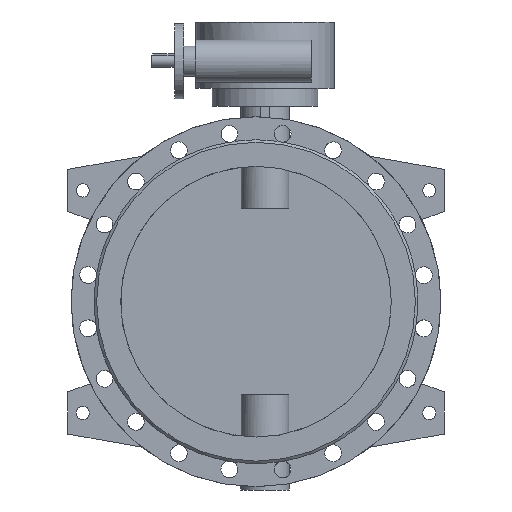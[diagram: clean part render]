
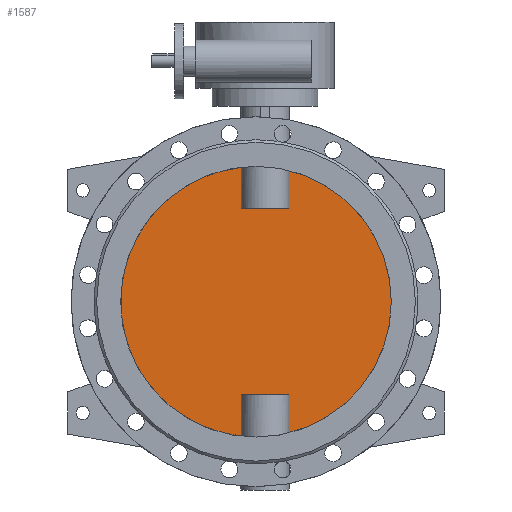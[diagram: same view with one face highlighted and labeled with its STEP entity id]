
A CAD part, front view. The second image highlights one B-rep face of the part: STEP entity #1587.
In plain terms, the highlighted planar face has unit normal (0, -1, 0).
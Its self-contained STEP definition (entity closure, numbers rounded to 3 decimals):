
#1587=ADVANCED_FACE('',(#3227),#3229,.F.);
#3227=FACE_BOUND('',#3228,.T.);
#3228=EDGE_LOOP('',(#4340,#4341,#4342,#4343,#4344,#4345,#4346,#4347));
#3229=PLANE('',#3230);
#3230=AXIS2_PLACEMENT_3D('',#3231,#3232,#3233);
#3231=CARTESIAN_POINT('',(0.,-5.,0.));
#3232=DIRECTION('',(0.,1.,0.));
#3233=DIRECTION('',(1.,0.,0.));
#4340=ORIENTED_EDGE('',*,*,#4892,.T.);
#4341=ORIENTED_EDGE('',*,*,#4902,.T.);
#4342=ORIENTED_EDGE('',*,*,#4903,.T.);
#4343=ORIENTED_EDGE('',*,*,#4904,.T.);
#4344=ORIENTED_EDGE('',*,*,#4894,.T.);
#4345=ORIENTED_EDGE('',*,*,#4905,.T.);
#4346=ORIENTED_EDGE('',*,*,#4906,.T.);
#4347=ORIENTED_EDGE('',*,*,#4907,.T.);
#4892=EDGE_CURVE('',#5791,#5792,#5793,.F.);
#4894=EDGE_CURVE('',#5796,#5794,#5797,.F.);
#4902=EDGE_CURVE('',#5792,#5811,#5812,.T.);
#4903=EDGE_CURVE('',#5811,#5813,#5814,.F.);
#4904=EDGE_CURVE('',#5813,#5796,#5815,.F.);
#4905=EDGE_CURVE('',#5794,#5816,#5817,.F.);
#4906=EDGE_CURVE('',#5816,#5818,#5819,.F.);
#4907=EDGE_CURVE('',#5818,#5791,#5820,.T.);
#5791=VERTEX_POINT('',#10607);
#5792=VERTEX_POINT('',#10608);
#5793=CIRCLE('',#10609,225.);
#5794=VERTEX_POINT('',#10613);
#5796=VERTEX_POINT('',#10699);
#5797=CIRCLE('',#10700,225.);
#5811=VERTEX_POINT('',#10843);
#5812=LINE('',#10844,#10845);
#5813=VERTEX_POINT('',#10847);
#5814=LINE('',#10848,#10849);
#5815=LINE('',#10851,#10852);
#5816=VERTEX_POINT('',#10854);
#5817=LINE('',#10855,#10856);
#5818=VERTEX_POINT('',#10858);
#5819=LINE('',#10859,#10860);
#5820=LINE('',#10862,#10863);
#10607=CARTESIAN_POINT('',(54.686,-5.,-218.253));
#10608=CARTESIAN_POINT('',(54.686,-5.,218.253));
#10609=AXIS2_PLACEMENT_3D('',#10610,#10611,#10612);
#10610=CARTESIAN_POINT('',(0.,-5.,0.));
#10611=DIRECTION('',(0.,1.,0.));
#10612=DIRECTION('',(0.243,0.,0.97));
#10613=CARTESIAN_POINT('',(-24.686,-5.,-223.642));
#10699=CARTESIAN_POINT('',(-24.686,-5.,223.642));
#10700=AXIS2_PLACEMENT_3D('',#10701,#10702,#10703);
#10701=CARTESIAN_POINT('',(0.,-5.,0.));
#10702=DIRECTION('',(0.,1.,0.));
#10703=DIRECTION('',(-0.11,0.,-0.994));
#10843=CARTESIAN_POINT('',(54.686,-5.,155.));
#10844=CARTESIAN_POINT('',(54.686,-5.,218.253));
#10845=VECTOR('',#10846,1.);
#10846=DIRECTION('',(0.,0.,-1.));
#10847=CARTESIAN_POINT('',(-24.686,-5.,155.));
#10848=CARTESIAN_POINT('',(-24.686,-5.,155.));
#10849=VECTOR('',#10850,1.);
#10850=DIRECTION('',(1.,0.,0.));
#10851=CARTESIAN_POINT('',(-24.686,-5.,223.642));
#10852=VECTOR('',#10853,1.);
#10853=DIRECTION('',(0.,0.,-1.));
#10854=CARTESIAN_POINT('',(-24.686,-5.,-155.));
#10855=CARTESIAN_POINT('',(-24.686,-5.,-155.));
#10856=VECTOR('',#10857,1.);
#10857=DIRECTION('',(0.,0.,-1.));
#10858=CARTESIAN_POINT('',(54.686,-5.,-155.));
#10859=CARTESIAN_POINT('',(54.686,-5.,-155.));
#10860=VECTOR('',#10861,1.);
#10861=DIRECTION('',(-1.,0.,0.));
#10862=CARTESIAN_POINT('',(54.686,-5.,-155.));
#10863=VECTOR('',#10864,1.);
#10864=DIRECTION('',(0.,0.,-1.));
